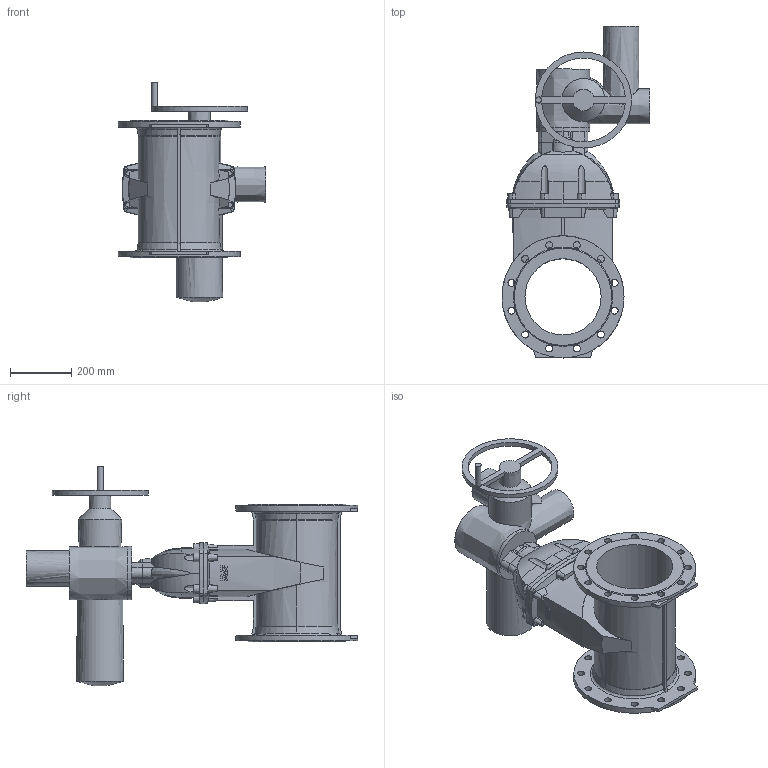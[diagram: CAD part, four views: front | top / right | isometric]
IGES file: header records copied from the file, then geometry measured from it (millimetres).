
Start section: SolidWorks IGES file using analytic representation for surfaces
Global section: file name: \\avksan2\techshare\PBM outline export from Enovia\O_15_72_DN250_X0X_SA14.2_AA0.igs; native system: SolidWorks 2012; preprocessor: SolidWorks 2012; author: pbm; date: 170320.140612; units: inch
Bounding box: 485 x 1088 x 721 mm (x, y, z)
Surface area: 2043735.9 mm2 (no closed solid volume)
Topology: 0 solids, 0 shells, 350 faces, 1995 edges, 1924 vertices
Faces by surface type: revolution 185, bspline 165
